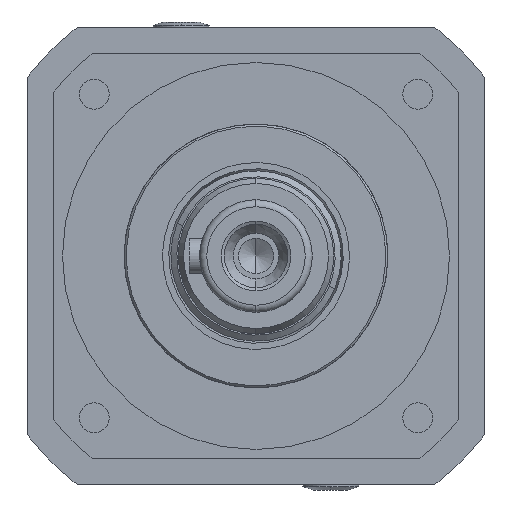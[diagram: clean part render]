
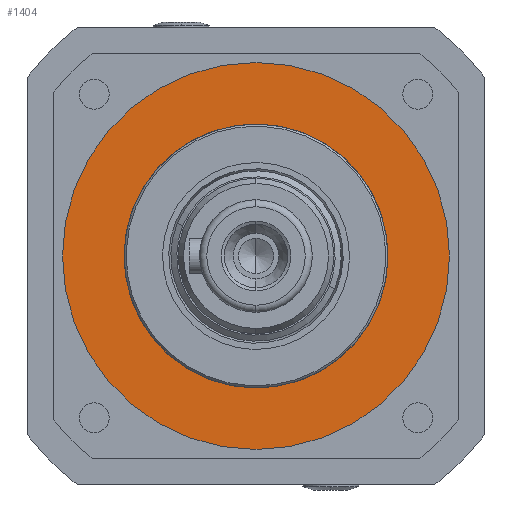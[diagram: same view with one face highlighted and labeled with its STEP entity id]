
A CAD part, left-side view. The second image highlights one B-rep face of the part: STEP entity #1404.
In plain terms, the highlighted planar face has unit normal (-1, 0, 0).
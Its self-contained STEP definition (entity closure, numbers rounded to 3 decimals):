
#686 = FACE_OUTER_BOUND ( 'NONE', #13027, .T. ) ;
#844 = CARTESIAN_POINT ( 'NONE',  ( -67., 0., 55. ) ) ;
#950 = DIRECTION ( 'NONE',  ( 0., 0., 1. ) ) ;
#1144 = VERTEX_POINT ( 'NONE', #6692 ) ;
#1162 = AXIS2_PLACEMENT_3D ( 'NONE', #9739, #22170, #11509 ) ;
#1404 = ADVANCED_FACE ( 'NONE', ( #5421, #686 ), #4445, .F. ) ;
#1828 = VERTEX_POINT ( 'NONE', #8975 ) ;
#2713 = DIRECTION ( 'NONE',  ( 0., 0., -1. ) ) ;
#3114 = AXIS2_PLACEMENT_3D ( 'NONE', #19755, #9088, #21529 ) ;
#3329 = ORIENTED_EDGE ( 'NONE', *, *, #19339, .T. ) ;
#4072 = CIRCLE ( 'NONE', #1162, 37.5 ) ;
#4445 = PLANE ( 'NONE',  #13712 ) ;
#5271 = VERTEX_POINT ( 'NONE', #844 ) ;
#5421 = FACE_BOUND ( 'NONE', #17383, .T. ) ;
#5633 = CARTESIAN_POINT ( 'NONE',  ( -67., 0., 0. ) ) ;
#5640 = VERTEX_POINT ( 'NONE', #20148 ) ;
#5786 = CIRCLE ( 'NONE', #16658, 37.5 ) ;
#6137 = ORIENTED_EDGE ( 'NONE', *, *, #17637, .F. ) ;
#6198 = ORIENTED_EDGE ( 'NONE', *, *, #9193, .T. ) ;
#6692 = CARTESIAN_POINT ( 'NONE',  ( -67., 0., -37.5 ) ) ;
#7440 = DIRECTION ( 'NONE',  ( 0., 0., 1. ) ) ;
#8975 = CARTESIAN_POINT ( 'NONE',  ( -67., 0., -55. ) ) ;
#9088 = DIRECTION ( 'NONE',  ( -1., 0., 0. ) ) ;
#9193 = EDGE_CURVE ( 'NONE', #5271, #1828, #19076, .T. ) ;
#9739 = CARTESIAN_POINT ( 'NONE',  ( -67., 0., 0. ) ) ;
#9783 = CARTESIAN_POINT ( 'NONE',  ( -67., 0., 0. ) ) ;
#11509 = DIRECTION ( 'NONE',  ( 0., 0., 1. ) ) ;
#11628 = DIRECTION ( 'NONE',  ( -1., 0., 0. ) ) ;
#12825 = AXIS2_PLACEMENT_3D ( 'NONE', #5633, #18086, #7440 ) ;
#12921 = ORIENTED_EDGE ( 'NONE', *, *, #15561, .F. ) ;
#13027 = EDGE_LOOP ( 'NONE', ( #6198, #3329 ) ) ;
#13351 = DIRECTION ( 'NONE',  ( 1., 0., 0. ) ) ;
#13712 = AXIS2_PLACEMENT_3D ( 'NONE', #9783, #13351, #2713 ) ;
#15561 = EDGE_CURVE ( 'NONE', #1144, #5640, #5786, .T. ) ;
#16658 = AXIS2_PLACEMENT_3D ( 'NONE', #22286, #11628, #950 ) ;
#17383 = EDGE_LOOP ( 'NONE', ( #6137, #12921 ) ) ;
#17637 = EDGE_CURVE ( 'NONE', #5640, #1144, #4072, .T. ) ;
#18086 = DIRECTION ( 'NONE',  ( -1., 0., 0. ) ) ;
#19076 = CIRCLE ( 'NONE', #3114, 55. ) ;
#19339 = EDGE_CURVE ( 'NONE', #1828, #5271, #21788, .T. ) ;
#19755 = CARTESIAN_POINT ( 'NONE',  ( -67., 0., 0. ) ) ;
#20148 = CARTESIAN_POINT ( 'NONE',  ( -67., 0., 37.5 ) ) ;
#21529 = DIRECTION ( 'NONE',  ( 0., 0., 1. ) ) ;
#21788 = CIRCLE ( 'NONE', #12825, 55. ) ;
#22170 = DIRECTION ( 'NONE',  ( -1., 0., 0. ) ) ;
#22286 = CARTESIAN_POINT ( 'NONE',  ( -67., 0., 0. ) ) ;
